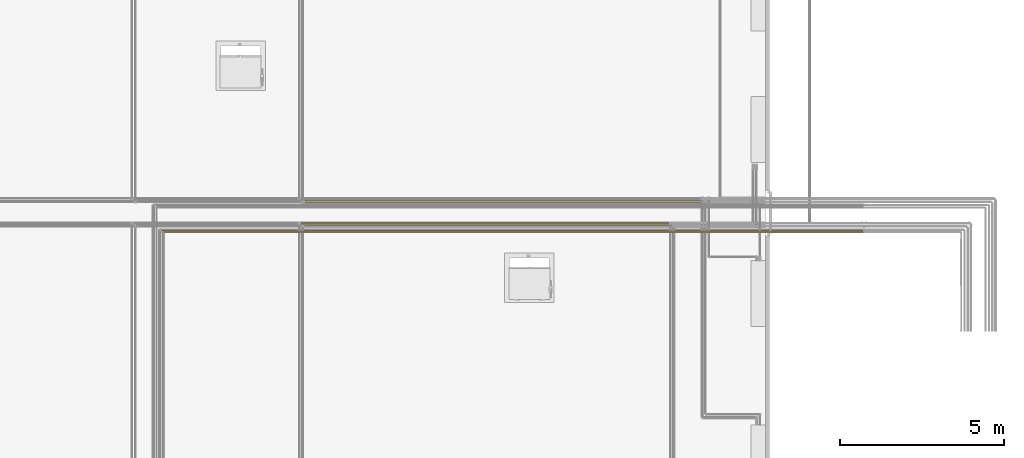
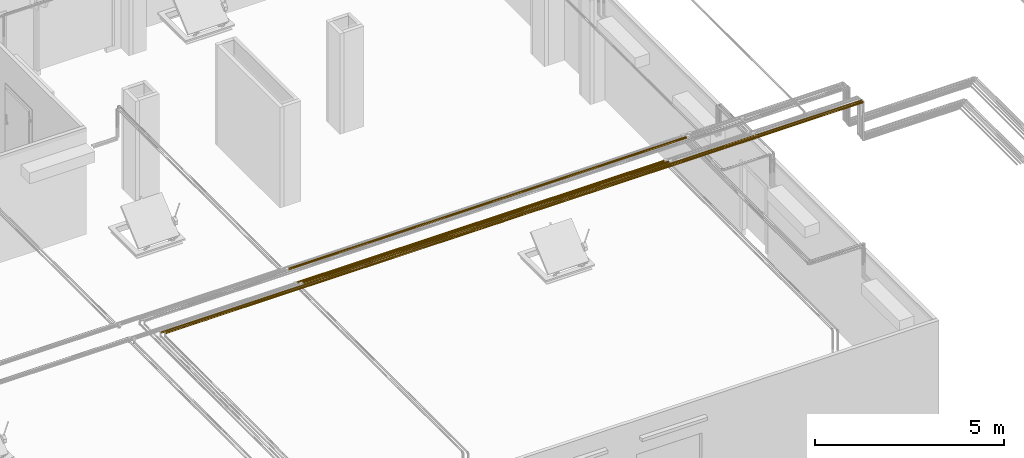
# One storey, part 103 of 652: 5 coverings.
"""IFC2X3 building model written with IfcOpenShell, lengths in millimetres."""

from ifc_helpers import new_model, entity, si_unit, converted_unit, direction, frame, origin, place, context, subcontext, project, spatial, faceted_brep, material, type_object, element, save


model = new_model("IFC2X3")

# Units and contexts
model_context = context("Model", 3, precision=0.01, world=frame((0.0, 0.0, 308426.39999999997)), true_north=direction((6.123233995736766e-17, 1.0)))
plan_context = context("Plan", 3, precision=0.01, world=frame((0.0, 0.0, 308426.39999999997)), true_north=direction((6.123233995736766e-17, 1.0)))
body_context = subcontext(model_context, "Body", "Model", "MODEL_VIEW")
ifc_project = project(units=[si_unit("LENGTHUNIT", "METRE", prefix="MILLI"), si_unit("AREAUNIT", "SQUARE_METRE"), si_unit("VOLUMEUNIT", "CUBIC_METRE"), converted_unit("PLANEANGLEUNIT", "DEGREE", entity("IfcPlaneAngleMeasure", 0.017453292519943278), si_unit("PLANEANGLEUNIT", "RADIAN"), dimensions=[0, 0, 0, 0, 0, 0, 0])], contexts=[model_context, plan_context])

# Site, building, storey
site_placement = place(None, origin())
site = spatial("IfcSite", under=ifc_project, at=site_placement, Name="Default", CompositionType="ELEMENT")
building_placement = place(site_placement, origin())
building = spatial("IfcBuilding", under=site, at=building_placement, CompositionType="ELEMENT")
storey_placement = place(building_placement, frame((0.0, 0.0, 1730.6999999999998)))
storey = spatial("IfcBuildingStorey", under=building, at=storey_placement, Name="EG_Produktion_FFB", CompositionType="ELEMENT", Elevation=1730.6999999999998)

# Coverings
ifc_material = material(Name="Dämmung - Armaflex-Schlauch")
covering_type = type_object("IfcCoveringType", Name="Rohrdämmung außen:Armaflex-Schlauch", PredefinedType="INSULATION")
covering_1_placement = place(storey_placement, frame((52454.44724999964, 41486.94067746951, 3761.9422277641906)))
element("IfcCovering", 1, at=covering_1_placement, inside=storey, type_object=covering_type, material=ifc_material, Name="Rohrdämmung außen:Armaflex-Schlauch", ObjectType="Rohrdämmung außen:Armaflex-Schlauch", PredefinedType="INSULATION", context=body_context, shape_type="Brep", body=[
    faceted_brep([(0.0, 1.5952722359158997, 38.057772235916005), (0.0, 4.228636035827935, 44.41527483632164), (0.0, 6.935081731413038, 50.949212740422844), (0.0, 9.604986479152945, 57.39493299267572), (0.0, 12.274891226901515, 63.84065324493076), (0.0, 18.72061147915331, 66.51055799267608), (0.0, 25.166331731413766, 69.18046274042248), (0.0, 31.612051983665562, 71.85036748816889), (0.0, 38.057772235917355, 74.52027223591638), (0.0, 44.41527483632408, 71.88690843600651), (0.0, 50.94921274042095, 69.18046274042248), (0.0, 57.394932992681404, 66.51055799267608), (0.0, 63.8406532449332, 63.84065324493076), (0.0, 66.51055799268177, 57.39493299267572), (0.0, 69.18046274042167, 50.949212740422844), (0.0, 71.85036748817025, 44.50349248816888), (0.0, 74.52027223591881, 38.057772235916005), (0.0, 71.85036748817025, 31.61205198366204), (0.0, 69.18046274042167, 25.166331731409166), (0.0, 66.51055799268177, 18.720611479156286), (0.0, 63.8406532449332, 12.274891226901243), (0.0, 57.39493299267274, 9.604986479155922), (0.0, 50.94921274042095, 6.935081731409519), (0.0, 44.50349248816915, 4.265176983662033), (0.0, 38.057772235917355, 1.595272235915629), (0.0, 31.700269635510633, 4.2286360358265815), (0.0, 25.166331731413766, 6.935081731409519), (0.0, 18.72061147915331, 9.604986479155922), (0.0, 12.274891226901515, 12.274891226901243), (0.0, 9.604986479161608, 18.720611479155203), (0.0, 6.935081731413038, 25.166331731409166), (0.0, 4.265176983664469, 31.61205198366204), (12161.1055, 18.72061147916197, 9.604986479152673), (12161.1055, 25.166331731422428, 6.935081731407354), (12161.1055, 31.61205198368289, 4.265176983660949), (12161.1055, 38.057772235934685, 1.595272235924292), (12161.1055, 44.41527483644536, 4.228636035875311), (12161.1055, 50.77277743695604, 6.86199983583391), (12161.1055, 57.306715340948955, 9.568445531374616), (12161.1055, 63.84065324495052, 12.274891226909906), (12161.1055, 66.51055799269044, 18.720611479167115), (12161.1055, 69.18046274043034, 25.166331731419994), (12161.1055, 71.85036748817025, 31.61205198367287), (12161.1055, 74.52027223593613, 38.057772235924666), (12161.1055, 71.88690843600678, 44.41527483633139), (12161.1055, 69.25354463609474, 50.77277743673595), (12161.1055, 66.54709894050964, 57.30671534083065), (12161.1055, 63.84065324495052, 63.840653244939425), (12161.105500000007, 57.394932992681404, 66.51055799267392), (12161.1055, 50.94921274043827, 69.18046274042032), (12161.105500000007, 44.503492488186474, 71.85036748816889), (12161.1055, 38.057772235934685, 74.52027223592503), (12161.1055, 31.70026963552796, 71.88690843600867), (12161.1055, 25.342767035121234, 69.25354463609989), (12161.105500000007, 18.808829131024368, 66.54709894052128), (12161.1055, 12.27489122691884, 63.840653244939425), (12161.1055, 9.60498647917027, 57.39493299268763), (12161.1055, 6.935081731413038, 50.94921274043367), (12161.1055, 4.265176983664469, 44.50349248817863), (12161.1055, 1.5952722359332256, 38.057772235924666), (12161.1055, 4.228636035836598, 31.700269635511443), (12161.1055, 6.861999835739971, 25.342767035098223), (12161.1055, 9.568445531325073, 18.80882913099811), (12161.1055, 12.27489122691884, 12.274891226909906)], [[[0, 1, 2, 3, 4, 5, 6, 7, 8, 9, 10, 11, 12, 13, 14, 15, 16, 17, 18, 19, 20, 21, 22, 23, 24, 25, 26, 27, 28, 29, 30, 31]], [[32, 33, 34, 35, 36, 37, 38, 39, 40, 41, 42, 43, 44, 45, 46, 47, 48, 49, 50, 51, 52, 53, 54, 55, 56, 57, 58, 59, 60, 61, 62, 63]], [[41, 40, 39, 20, 19, 18, 17, 16, 43, 42]], [[21, 20, 39, 38, 37, 36, 35, 24, 23, 22]], [[25, 24, 35, 34, 33, 32, 63, 28, 27, 26]], [[62, 61, 60, 59, 0, 31, 30, 29, 28, 63]], [[1, 0, 59, 58, 57, 56, 55, 4, 3, 2]], [[54, 53, 52, 51, 8, 7, 6, 5, 4, 55]], [[9, 8, 51, 50, 49, 48, 47, 12, 11, 10]], [[46, 45, 44, 43, 16, 15, 14, 13, 12, 47]]]),
])
covering_2_placement = place(storey_placement, frame((52454.447249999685, 40736.94222776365, 3761.942227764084)))
element("IfcCovering", 2, at=covering_2_placement, inside=storey, type_object=covering_type, material=ifc_material, Name="Rohrdämmung außen:Armaflex-Schlauch", ObjectType="Rohrdämmung außen:Armaflex-Schlauch", PredefinedType="INSULATION", context=body_context, shape_type="Brep", body=[
    faceted_brep([(11191.105499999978, 74.52027223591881, 38.057772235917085), (11191.105499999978, 71.65865905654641, 44.96631758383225), (11191.105499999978, 69.18046274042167, 50.949212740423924), (11191.105499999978, 66.51055799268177, 57.3949329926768), (11191.105499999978, 63.8406532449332, 63.84065324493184), (11191.105499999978, 57.39493299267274, 66.51055799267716), (11191.105499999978, 50.94921274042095, 69.18046274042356), (11191.105499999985, 44.96631758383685, 71.65865905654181), (11191.105499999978, 38.057772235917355, 74.52027223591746), (11191.105499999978, 31.149226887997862, 71.65865905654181), (11191.105499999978, 25.166331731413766, 69.18046274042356), (11191.105499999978, 18.72061147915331, 66.51055799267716), (11191.105499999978, 12.274891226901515, 63.84065324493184), (11191.105499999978, 9.604986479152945, 57.3949329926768), (11191.105499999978, 6.935081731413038, 50.949212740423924), (11191.105499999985, 4.456885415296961, 44.96631758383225), (11191.105499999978, 1.5952722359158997, 38.057772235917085), (11191.105499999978, 4.265176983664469, 31.612051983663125), (11191.105499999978, 6.935081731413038, 25.166331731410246), (11191.105499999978, 9.604986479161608, 18.72061147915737), (11191.105499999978, 12.274891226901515, 12.274891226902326), (11191.105499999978, 18.72061147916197, 9.604986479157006), (11191.105499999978, 25.166331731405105, 6.935081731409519), (11191.105499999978, 31.149226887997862, 4.4568854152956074), (11191.105499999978, 38.057772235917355, 1.595272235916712), (11191.105499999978, 44.966317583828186, 4.456885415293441), (11191.105499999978, 50.94921274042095, 6.935081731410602), (11191.105499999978, 57.39493299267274, 9.604986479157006), (11191.105499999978, 63.8406532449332, 12.274891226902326), (11191.105499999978, 66.5105579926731, 18.72061147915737), (11191.105499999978, 69.18046274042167, 25.166331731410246), (11191.105499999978, 71.65865905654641, 31.149226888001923), (0.0, 57.39493299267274, 9.604986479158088), (0.0, 50.94921274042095, 6.935081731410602), (0.0, 44.50349248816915, 4.265176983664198), (0.0, 38.057772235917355, 1.5952722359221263), (0.0, 31.14922688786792, 4.4568854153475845), (0.0, 24.240681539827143, 7.3184985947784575), (0.0, 18.25778638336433, 9.796694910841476), (0.0, 12.274891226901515, 12.27489122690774), (0.0, 9.604986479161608, 18.720611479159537), (0.0, 6.935081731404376, 25.166331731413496), (0.0, 4.265176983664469, 31.612051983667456), (0.0, 1.5952722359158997, 38.0577722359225), (0.0, 4.456885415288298, 44.966317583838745), (0.0, 7.318498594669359, 51.87486293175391), (0.0, 9.796694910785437, 57.857758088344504), (0.0, 12.274891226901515, 63.84065324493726), (0.0, 18.72061147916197, 66.51055799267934), (0.0, 25.166331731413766, 69.18046274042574), (0.0, 31.612051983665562, 71.85036748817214), (0.0, 38.057772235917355, 74.52027223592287), (0.0, 44.96631758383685, 71.65865905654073), (0.0, 51.87486293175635, 68.797045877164), (0.0, 57.8577580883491, 66.318849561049), (0.0, 63.8406532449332, 63.84065324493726), (0.0, 66.51055799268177, 57.394932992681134), (0.0, 69.18046274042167, 50.94921274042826), (0.0, 71.85036748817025, 44.503492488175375), (0.0, 74.52027223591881, 38.0577722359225), (0.0, 71.65865905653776, 31.149226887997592), (0.0, 68.79704587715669, 24.2406815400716), (0.0, 66.31884956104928, 18.25778638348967), (0.0, 63.8406532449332, 12.27489122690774)], [[[0, 1, 2, 3, 4, 5, 6, 7, 8, 9, 10, 11, 12, 13, 14, 15, 16, 17, 18, 19, 20, 21, 22, 23, 24, 25, 26, 27, 28, 29, 30, 31]], [[32, 33, 34, 35, 36, 37, 38, 39, 40, 41, 42, 43, 44, 45, 46, 47, 48, 49, 50, 51, 52, 53, 54, 55, 56, 57, 58, 59, 60, 61, 62, 63]], [[41, 40, 39, 20, 19, 18, 17, 16, 43, 42]], [[20, 39, 38, 37, 36, 35, 24, 23, 22, 21]], [[24, 35, 34, 33, 32, 63, 28, 27, 26, 25]], [[28, 63, 62, 61, 60, 59, 0, 31, 30, 29]], [[0, 59, 58, 57, 56, 55, 4, 3, 2, 1]], [[4, 55, 54, 53, 52, 51, 8, 7, 6, 5]], [[8, 51, 50, 49, 48, 47, 12, 11, 10, 9]], [[12, 47, 46, 45, 44, 43, 16, 15, 14, 13]]]),
])
covering_3_placement = place(storey_placement, frame((52345.74774999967, 40840.11722776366, 3765.117227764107)))
element("IfcCovering", 3, at=covering_3_placement, inside=storey, type_object=covering_type, material=ifc_material, Name="Rohrdämmung außen:Armaflex-Schlauch", ObjectType="Rohrdämmung außen:Armaflex-Schlauch", PredefinedType="INSULATION", context=body_context, shape_type="Brep", body=[
    faceted_brep([(11208.504499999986, 68.17027223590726, 34.88277223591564), (11208.504499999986, 65.67804089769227, 40.89955093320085), (11208.504499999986, 63.295430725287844, 46.65168072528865), (11208.504499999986, 60.8580099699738, 52.536134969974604), (11208.504499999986, 58.420589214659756, 58.42058921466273), (11208.504499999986, 52.53613496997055, 60.85800996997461), (11208.504499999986, 46.65168072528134, 63.295430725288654), (11208.504499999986, 40.89955093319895, 65.67804089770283), (11208.504499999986, 34.88277223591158, 68.17027223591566), (11208.504499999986, 28.86599353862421, 65.67804089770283), (11208.504499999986, 23.113863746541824, 63.295430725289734), (11208.504499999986, 17.229409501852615, 60.85800996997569), (11208.504499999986, 11.344955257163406, 58.42058921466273), (11208.504499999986, 8.907534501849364, 52.53613496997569), (11208.504499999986, 6.470113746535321, 46.65168072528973), (11208.504499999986, 4.087503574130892, 40.89955093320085), (11208.504499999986, 1.5952722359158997, 34.88277223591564), (11208.504499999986, 4.032692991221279, 28.9983179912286), (11208.504499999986, 6.470113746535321, 23.113863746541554), (11208.504499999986, 8.907534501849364, 17.229409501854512), (11208.504499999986, 11.344955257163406, 11.34495525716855), (11208.504499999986, 17.229409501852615, 8.90753450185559), (11208.504499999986, 23.113863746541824, 6.470113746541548), (11208.504499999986, 28.86599353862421, 4.087503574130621), (11208.504499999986, 34.88277223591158, 1.595272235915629), (11208.504499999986, 40.89955093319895, 4.087503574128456), (11208.504499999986, 46.65168072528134, 6.470113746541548), (11208.504499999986, 52.53613496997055, 8.90753450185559), (11208.504499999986, 58.420589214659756, 11.34495525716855), (11208.504499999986, 60.8580099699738, 17.229409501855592), (11208.504499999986, 63.295430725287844, 23.113863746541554), (11208.504499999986, 65.67804089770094, 28.865993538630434), (0.0, 52.53613496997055, 8.907534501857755), (0.0, 46.65168072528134, 6.4701137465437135), (0.0, 40.76722648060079, 4.032692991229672), (0.0, 34.88277223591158, 1.5952722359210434), (0.0, 28.86599353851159, 4.087503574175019), (0.0, 22.84921484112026, 6.579734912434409), (0.0, 17.097085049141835, 8.962345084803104), (0.0, 11.344955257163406, 11.344955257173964), (0.0, 8.907534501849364, 17.229409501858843), (0.0, 6.470113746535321, 23.113863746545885), (0.0, 4.032692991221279, 28.99831799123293), (0.0, 1.5952722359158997, 34.88277223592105), (0.0, 4.087503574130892, 40.899550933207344), (0.0, 6.579734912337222, 46.916329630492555), (0.0, 8.962345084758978, 52.66845942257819), (0.0, 11.344955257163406, 58.42058921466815), (0.0, 17.229409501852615, 60.85800996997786), (0.0, 23.113863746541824, 63.295430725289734), (0.0, 28.998317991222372, 65.73285148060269), (0.0, 34.88277223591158, 68.17027223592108), (0.0, 40.89955093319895, 65.67804089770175), (0.0, 46.916329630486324, 63.185809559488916), (0.0, 52.66845942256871, 60.80319938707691), (0.0, 58.420589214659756, 58.42058921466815), (0.0, 60.8580099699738, 52.53613496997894), (0.0, 63.295430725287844, 46.65168072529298), (0.0, 65.73285148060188, 40.767226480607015), (0.0, 68.17027223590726, 34.88277223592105), (0.0, 65.67804089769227, 28.86599353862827), (0.0, 63.18580955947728, 22.849214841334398), (0.0, 60.80319938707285, 17.0970850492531), (0.0, 58.420589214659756, 11.344955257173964)], [[[0, 1, 2, 3, 4, 5, 6, 7, 8, 9, 10, 11, 12, 13, 14, 15, 16, 17, 18, 19, 20, 21, 22, 23, 24, 25, 26, 27, 28, 29, 30, 31]], [[32, 33, 34, 35, 36, 37, 38, 39, 40, 41, 42, 43, 44, 45, 46, 47, 48, 49, 50, 51, 52, 53, 54, 55, 56, 57, 58, 59, 60, 61, 62, 63]], [[41, 40, 39, 20, 19, 18, 17, 16, 43, 42]], [[20, 39, 38, 37, 36, 35, 24, 23, 22, 21]], [[24, 35, 34, 33, 32, 63, 28, 27, 26, 25]], [[28, 63, 62, 61, 60, 59, 0, 31, 30, 29]], [[0, 59, 58, 57, 56, 55, 4, 3, 2, 1]], [[4, 55, 54, 53, 52, 51, 8, 7, 6, 5]], [[8, 51, 50, 49, 48, 47, 12, 11, 10, 9]], [[12, 47, 46, 45, 44, 43, 16, 15, 14, 13]]]),
])
covering_4_placement = place(storey_placement, frame((48066.354977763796, 40649.64222776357, 3774.6422277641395)))
element("IfcCovering", 4, at=covering_4_placement, inside=storey, type_object=covering_type, material=ifc_material, Name="Rohrdämmung außen:Armaflex-Schlauch", ObjectType="Rohrdämmung außen:Armaflex-Schlauch", PredefinedType="INSULATION", context=body_context, shape_type="Brep", body=[
    faceted_brep([(21415.69477223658, 48.047093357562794, 20.423230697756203), (21415.69477223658, 49.12027223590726, 25.35777223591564), (21415.69477223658, 47.089070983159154, 30.261525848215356), (21415.69477223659, 45.05786973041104, 35.16527946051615), (21415.69477223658, 42.160397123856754, 42.16039712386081), (21415.69477223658, 35.16527946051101, 45.05786973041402), (21415.69477223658, 30.261525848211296, 47.08907098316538), (21415.69477223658, 25.35777223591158, 49.12027223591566), (21415.69477223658, 20.454018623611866, 47.08907098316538), (21415.69477223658, 15.550265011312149, 45.05786973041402), (21415.69477223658, 8.55514734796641, 42.16039712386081), (21415.69477223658, 5.65767474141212, 35.16527946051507), (21415.69477223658, 3.62647348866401, 30.261525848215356), (21415.69477223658, 1.5952722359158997, 25.35777223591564), (21415.69477223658, 2.6684511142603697, 20.423230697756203), (21415.69477223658, 3.7416299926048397, 15.488689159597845), (21415.69477223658, 6.764379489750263, 11.44810569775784), (21415.69477223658, 9.787128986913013, 7.407522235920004), (21415.69477223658, 40.92841548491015, 7.407522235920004), (21415.69477223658, 43.95116498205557, 11.44810569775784), (21415.69477223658, 46.97391447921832, 15.488689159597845), (1.5952722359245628, 40.92841548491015, 7.407522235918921), (1.5952722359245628, 9.787128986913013, 7.407522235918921), (1.5952722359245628, 6.764379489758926, 11.44810569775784), (1.5952722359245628, 3.7416299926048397, 15.48868915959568), (1.5952722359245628, 2.6684511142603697, 20.42323069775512), (1.5952722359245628, 1.5952722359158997, 25.35777223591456), (1.5952722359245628, 3.626473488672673, 30.261525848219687), (1.5952722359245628, 5.65767474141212, 35.165279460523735), (1.5952722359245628, 8.55514734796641, 42.16039712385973), (1.5952722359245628, 15.550265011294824, 45.057869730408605), (1.5952722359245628, 20.4540186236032, 47.089070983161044), (1.5952722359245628, 25.35777223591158, 49.12027223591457), (1.5952722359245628, 30.261525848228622, 47.089070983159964), (1.5952722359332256, 35.165279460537, 45.05786973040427), (1.5952722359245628, 42.160397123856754, 42.16039712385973), (1.5952722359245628, 45.05786973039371, 35.165279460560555), (1.5952722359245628, 47.089070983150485, 30.261525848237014), (1.5952722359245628, 49.12027223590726, 25.35777223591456), (1.5952722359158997, 48.047093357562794, 20.42323069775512), (1.5952722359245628, 46.97391447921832, 15.48868915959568), (1.5952722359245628, 43.951164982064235, 11.44810569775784), (13978.475384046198, 2.719609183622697, 18.134893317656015), (6466.069098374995, 2.3938850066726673, 19.24906618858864), (6390.133610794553, 5.210308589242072, 12.758720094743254), (8431.356455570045, 8.779373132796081, 8.333874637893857), (13275.77974730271, 9.734615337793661, 7.453209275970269), (13209.651787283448, 6.330408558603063, 11.123453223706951), (10708.58440882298, 25.35777223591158, 1.595272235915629), (15221.047166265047, 20.099232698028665, 2.1844218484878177), (8595.171567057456, 19.06394994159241, 2.443929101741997), (10894.996909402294, 1.5952722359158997, 25.35777223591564), (21409.882522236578, 25.35777223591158, 1.595272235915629), (21410.632738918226, 21.202751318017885, 2.3454889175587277), (21411.382955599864, 17.04773040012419, 3.095705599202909), (16656.05980747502, 13.760377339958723, 4.617549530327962), (5.9070888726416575, 17.04773040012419, 3.095705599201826), (6.6573055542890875, 21.202751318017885, 2.3454889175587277), (4514.627082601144, 13.222389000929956, 4.927674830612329), (3.75118055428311, 13.417429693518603, 5.251613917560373), (10708.645021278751, 13.219684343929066, 4.9292816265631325), (21413.53886391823, 13.417429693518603, 5.251613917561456), (15963.261396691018, 25.35777223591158, 1.595272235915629), (7.407522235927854, 25.35777223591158, 1.595272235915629), (5357.995965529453, 25.35777223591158, 1.595272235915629), (10516.519778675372, 25.35777223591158, 1.595272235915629), (5.9070888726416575, 33.66781407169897, 3.095705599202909), (4816.515990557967, 36.83345601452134, 4.549959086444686), (6046.673849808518, 30.533179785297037, 2.165714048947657), (7980.214466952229, 40.94830453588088, 7.424793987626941), (6.6573055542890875, 29.512793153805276, 2.3454889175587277), (12636.105142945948, 31.622156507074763, 2.435863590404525), (21411.382955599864, 33.66781407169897, 3.095705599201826), (21410.632738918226, 29.51279315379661, 2.3454889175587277), (16902.6629610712, 37.49315547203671, 4.927674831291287), (21413.538863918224, 37.29811477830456, 5.251613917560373), (14947.829392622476, 48.280304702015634, 19.095671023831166), (15094.98504444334, 45.41126709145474, 12.60968413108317), (7483.42555172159, 48.01771480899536, 18.203514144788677), (8207.638252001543, 44.38513591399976, 11.123453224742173), (12870.939120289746, 41.91405954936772, 8.312369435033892), (10522.078253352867, 49.12027223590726, 25.35777223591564), (10895.418356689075, 49.12027223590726, 25.35777223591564), (10708.645021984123, 37.495860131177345, 4.929281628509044), (3.75118055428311, 37.29811477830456, 5.251613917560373), (12663.622743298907, 47.061905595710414, 35.03180972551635), (15484.0145949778, 48.38376501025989, 31.228041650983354), (5809.964174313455, 44.67110823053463, 39.201596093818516), (8494.719463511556, 39.20159609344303, 44.67110823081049), (13677.178949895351, 44.67110823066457, 39.201596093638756), (14759.407121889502, 32.060429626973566, 48.15537715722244), (6943.889246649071, 32.20172854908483, 48.11335766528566), (8081.77138369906, 47.72953546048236, 33.36780447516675), (10523.492546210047, 25.35777223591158, 49.12027223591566), (10894.251382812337, 25.35777223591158, 49.12027223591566), (12663.62274281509, 15.683734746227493, 47.06190559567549), (15484.014594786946, 19.487502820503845, 48.383765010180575), (5809.964174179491, 11.513948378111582, 44.67110823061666), (8494.719463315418, 6.044436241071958, 39.201596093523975), (13677.178949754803, 11.513948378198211, 44.67110823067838), (14759.40712177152, 2.5601673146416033, 32.06042962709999), (6943.889246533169, 2.602186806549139, 32.201728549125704), (8081.771383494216, 17.34773999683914, 47.72953546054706)], [[[0, 1, 2, 3, 4, 5, 6, 7, 8, 9, 10, 11, 12, 13, 14, 15, 16, 17, 18, 19, 20]], [[21, 22, 23, 24, 25, 26, 27, 28, 29, 30, 31, 32, 33, 34, 35, 36, 37, 38, 39, 40, 41]], [[42, 43, 44]], [[45, 46, 47]], [[43, 26, 25, 24]], [[48, 49, 50]], [[42, 44, 47]], [[46, 16, 47]], [[44, 45, 47]], [[42, 13, 51]], [[49, 52, 53, 54]], [[42, 47, 15]], [[49, 54, 55]], [[50, 56, 57]], [[43, 42, 51]], [[46, 55, 17]], [[26, 43, 51]], [[58, 22, 59, 56]], [[43, 24, 44]], [[42, 15, 14, 13]], [[45, 23, 22]], [[45, 60, 46]], [[45, 44, 23]], [[58, 45, 22]], [[55, 46, 60]], [[60, 50, 49]], [[55, 54, 61, 17]], [[60, 49, 55]], [[49, 48, 62, 52]], [[58, 50, 60]], [[57, 63, 64]], [[58, 56, 50]], [[45, 58, 60]], [[16, 46, 17]], [[16, 15, 47]], [[44, 24, 23]], [[50, 64, 65, 48]], [[57, 64, 50]], [[66, 67, 68]], [[69, 21, 41]], [[69, 67, 21]], [[68, 63, 70, 66]], [[71, 72, 73]], [[74, 18, 75, 72]], [[71, 65, 68]], [[76, 20, 77]], [[76, 1, 0, 20]], [[78, 40, 39, 38]], [[79, 80, 69]], [[79, 40, 78]], [[78, 38, 81, 82]], [[80, 79, 77]], [[78, 77, 79]], [[76, 78, 82]], [[1, 76, 82]], [[78, 76, 77]], [[80, 19, 18]], [[18, 74, 80]], [[77, 19, 80]], [[69, 80, 83]], [[67, 69, 83]], [[41, 40, 79]], [[83, 71, 68]], [[67, 66, 84, 21]], [[83, 68, 67]], [[68, 65, 64, 63]], [[74, 71, 83]], [[73, 52, 62]], [[74, 72, 71]], [[80, 74, 83]], [[69, 41, 79]], [[77, 20, 19]], [[71, 62, 48, 65]], [[73, 62, 71]], [[85, 3, 86]], [[87, 88, 89]], [[90, 88, 91]], [[37, 36, 92]], [[89, 88, 4]], [[86, 1, 82, 81]], [[36, 35, 87]], [[4, 3, 89]], [[90, 7, 6, 5]], [[81, 38, 37]], [[91, 32, 93, 94]], [[81, 37, 92]], [[86, 81, 92]], [[36, 87, 92]], [[35, 34, 88]], [[91, 88, 34]], [[4, 88, 5]], [[85, 86, 92]], [[86, 3, 2, 1]], [[88, 87, 35]], [[85, 87, 89]], [[91, 34, 33, 32]], [[90, 91, 94]], [[7, 90, 94]], [[88, 90, 5]], [[87, 85, 92]], [[3, 85, 89]], [[95, 9, 96]], [[97, 98, 99]], [[100, 98, 101]], [[31, 30, 102]], [[99, 98, 10]], [[96, 7, 94, 93]], [[30, 29, 97]], [[10, 9, 99]], [[100, 13, 12, 11]], [[93, 32, 31]], [[51, 101, 26]], [[93, 31, 102]], [[96, 93, 102]], [[30, 97, 102]], [[29, 28, 98]], [[101, 98, 28]], [[10, 98, 11]], [[95, 96, 102]], [[96, 9, 8, 7]], [[98, 97, 29]], [[95, 97, 99]], [[101, 28, 27, 26]], [[100, 101, 51]], [[13, 100, 51]], [[98, 100, 11]], [[97, 95, 102]], [[9, 95, 99]], [[72, 75, 18, 17, 61, 54, 53, 52, 73]], [[22, 21, 84, 66, 70, 63, 57, 56, 59]]]),
])
covering_5_placement = place(storey_placement, frame((48166.35497775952, 40574.64222776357, 3774.6422277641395)))
element("IfcCovering", 5, at=covering_5_placement, inside=storey, type_object=covering_type, material=ifc_material, Name="Rohrdämmung außen:Armaflex-Schlauch", ObjectType="Rohrdämmung außen:Armaflex-Schlauch", PredefinedType="INSULATION", context=body_context, shape_type="Brep", body=[
    faceted_brep([(21315.694772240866, 48.047093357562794, 20.423230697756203), (21315.694772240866, 49.12027223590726, 25.35777223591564), (21315.694772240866, 47.089070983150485, 30.261525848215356), (21315.694772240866, 45.05786973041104, 35.16527946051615), (21315.694772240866, 42.160397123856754, 42.16039712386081), (21315.694772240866, 35.16527946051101, 45.05786973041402), (21315.69477224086, 30.261525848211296, 47.0890709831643), (21315.694772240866, 25.35777223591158, 49.12027223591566), (21315.694772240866, 20.454018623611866, 47.08907098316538), (21315.694772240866, 15.550265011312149, 45.05786973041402), (21315.694772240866, 8.55514734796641, 42.16039712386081), (21315.694772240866, 5.65767474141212, 35.16527946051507), (21315.694772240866, 3.62647348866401, 30.261525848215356), (21315.694772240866, 1.5952722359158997, 25.35777223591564), (21315.694772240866, 2.6684511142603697, 20.423230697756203), (21315.694772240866, 3.7416299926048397, 15.488689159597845), (21315.694772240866, 6.764379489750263, 11.44810569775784), (21315.694772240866, 9.787128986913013, 7.407522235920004), (21315.694772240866, 40.92841548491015, 7.407522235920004), (21315.694772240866, 43.951164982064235, 11.44810569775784), (21315.694772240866, 46.97391447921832, 15.488689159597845), (1.5952722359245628, 40.928415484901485, 7.407522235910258), (1.5952722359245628, 9.787128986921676, 7.407522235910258), (1.5952722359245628, 6.764379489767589, 11.448105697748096), (1.5952722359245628, 3.7416299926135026, 15.488689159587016), (1.5952722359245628, 2.6684511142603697, 20.42323069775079), (1.5952722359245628, 1.5952722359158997, 25.35777223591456), (1.5952722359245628, 3.626473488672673, 30.261525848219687), (1.5952722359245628, 5.6576747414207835, 35.165279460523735), (1.5952722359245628, 8.55514734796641, 42.16039712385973), (1.5952722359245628, 15.550265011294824, 45.057869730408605), (1.5952722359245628, 20.4540186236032, 47.08907098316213), (1.5952722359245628, 25.35777223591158, 49.12027223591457), (1.5952722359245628, 30.261525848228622, 47.089070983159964), (1.5952722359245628, 35.165279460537, 45.05786973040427), (1.5952722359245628, 42.160397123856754, 42.16039712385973), (1.5952722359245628, 45.05786973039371, 35.16527946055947), (1.5952722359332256, 47.089070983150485, 30.261525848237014), (1.5952722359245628, 49.12027223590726, 25.35777223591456), (1.5952722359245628, 48.047093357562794, 20.42323069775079), (1.5952722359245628, 46.97391447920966, 15.488689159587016), (1.5952722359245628, 43.95116498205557, 11.448105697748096), (13890.445211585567, 2.7249498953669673, 18.11817562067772), (6407.472787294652, 2.3778417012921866, 19.30969825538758), (6388.128272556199, 5.150821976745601, 12.854350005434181), (8274.970445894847, 8.773298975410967, 8.33979195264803), (13088.707890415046, 9.707100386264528, 7.47725555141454), (13121.246323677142, 6.330408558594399, 11.12345322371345), (10658.645022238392, 25.35777223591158, 1.595272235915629), (15021.38387497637, 19.95160828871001, 2.2184162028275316), (8286.021080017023, 19.063962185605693, 2.4439257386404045), (10894.996909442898, 1.5952722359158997, 25.35777223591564), (21309.882522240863, 25.35777223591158, 1.595272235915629), (21310.63273892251, 21.202751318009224, 2.3454889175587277), (21311.38295560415, 17.04773040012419, 3.095705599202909), (16636.977467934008, 13.644355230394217, 4.682853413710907), (5.907088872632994, 17.047730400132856, 3.0957055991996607), (6.657305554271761, 21.202751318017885, 2.345488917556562), (4485.677859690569, 13.222401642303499, 4.927667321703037), (3.75118055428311, 13.417429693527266, 5.251613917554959), (10658.645021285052, 13.219706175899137, 4.929268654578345), (21313.53886392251, 13.417429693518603, 5.251613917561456), (15863.259950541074, 25.35777223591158, 1.595272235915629), (7.407522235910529, 25.35777223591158, 1.595272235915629), (5333.026272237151, 25.35777223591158, 1.595272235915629), (10416.516495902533, 25.35777223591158, 1.595272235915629), (5.907088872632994, 33.66781407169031, 3.0957055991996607), (4752.404010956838, 36.91363793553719, 4.594381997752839), (6103.423586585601, 30.651844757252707, 2.192513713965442), (8023.886947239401, 40.96772375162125, 7.441695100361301), (6.657305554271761, 29.51279315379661, 2.345488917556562), (12787.49724203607, 31.61033121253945, 2.432635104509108), (21311.38295560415, 33.66781407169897, 3.095705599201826), (21310.63273892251, 29.51279315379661, 2.3454889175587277), (16831.61218399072, 37.49314283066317, 4.927667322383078), (21313.53886392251, 37.29811477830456, 5.251613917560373), (14905.242091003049, 48.28542386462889, 19.11444002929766), (15014.982618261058, 45.44733374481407, 12.666597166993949), (7482.814736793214, 48.01791163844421, 18.204137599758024), (8196.043715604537, 44.3851359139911, 11.12345322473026), (12892.637304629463, 41.91391058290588, 8.312224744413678), (10421.85989331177, 49.12027223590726, 25.35777223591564), (10894.529221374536, 49.12027223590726, 25.35777223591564), (10658.64502199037, 37.49583829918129, 4.929268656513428), (3.75118055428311, 37.2981147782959, 5.251613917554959), (12655.52714307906, 47.06970794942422, 35.014285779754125), (15437.88520521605, 48.397013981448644, 31.175825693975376), (5803.528663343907, 44.67110823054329, 39.20159609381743), (8469.105280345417, 39.20159609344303, 44.67110823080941), (13609.480124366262, 44.67110823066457, 39.201596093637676), (14717.36833121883, 32.040826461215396, 48.16113147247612), (6940.699950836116, 32.19867433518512, 48.11427602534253), (8058.8312525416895, 47.72953546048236, 33.3678044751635), (10423.825487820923, 25.35777223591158, 49.12027223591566), (10894.045484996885, 25.35777223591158, 49.12027223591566), (12655.527142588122, 15.701258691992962, 47.069707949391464), (15437.88520502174, 19.539718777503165, 48.397013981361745), (5803.5286632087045, 11.513948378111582, 44.67110823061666), (8469.105280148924, 6.044436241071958, 39.201596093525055), (13609.480124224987, 11.513948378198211, 44.671108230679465), (14717.368331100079, 2.554412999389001, 32.040826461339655), (6940.699950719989, 2.6012684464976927, 32.19867433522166), (8058.831252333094, 17.34773999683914, 47.72953546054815)], [[[0, 1, 2, 3, 4, 5, 6, 7, 8, 9, 10, 11, 12, 13, 14, 15, 16, 17, 18, 19, 20]], [[21, 22, 23, 24, 25, 26, 27, 28, 29, 30, 31, 32, 33, 34, 35, 36, 37, 38, 39, 40, 41]], [[42, 43, 44]], [[45, 46, 47]], [[43, 26, 25, 24]], [[48, 49, 50]], [[42, 44, 47]], [[46, 16, 47]], [[44, 45, 47]], [[42, 13, 51]], [[49, 52, 53, 54]], [[42, 47, 15]], [[49, 54, 55]], [[50, 56, 57]], [[43, 42, 51]], [[46, 55, 17]], [[26, 43, 51]], [[58, 22, 59, 56]], [[43, 24, 44]], [[42, 15, 14, 13]], [[45, 23, 22]], [[45, 60, 46]], [[45, 44, 23]], [[58, 45, 22]], [[55, 46, 60]], [[60, 50, 49]], [[55, 54, 61, 17]], [[60, 49, 55]], [[49, 48, 62, 52]], [[58, 50, 60]], [[57, 63, 64]], [[58, 56, 50]], [[45, 58, 60]], [[16, 46, 17]], [[16, 15, 47]], [[44, 24, 23]], [[50, 64, 65, 48]], [[57, 64, 50]], [[66, 67, 68]], [[69, 21, 41]], [[69, 67, 21]], [[68, 63, 70, 66]], [[71, 72, 73]], [[74, 18, 75, 72]], [[71, 65, 68]], [[76, 20, 77]], [[76, 1, 0, 20]], [[78, 40, 39, 38]], [[79, 80, 69]], [[79, 40, 78]], [[78, 38, 81, 82]], [[79, 77, 80]], [[78, 77, 79]], [[76, 78, 82]], [[1, 76, 82]], [[78, 76, 77]], [[80, 19, 18]], [[80, 83, 69]], [[80, 77, 19]], [[74, 80, 18]], [[67, 69, 83]], [[41, 40, 79]], [[83, 71, 68]], [[67, 66, 84, 21]], [[83, 68, 67]], [[68, 65, 64, 63]], [[74, 71, 83]], [[73, 52, 62]], [[74, 72, 71]], [[80, 74, 83]], [[69, 41, 79]], [[77, 20, 19]], [[71, 62, 48, 65]], [[73, 62, 71]], [[85, 3, 86]], [[87, 88, 89]], [[90, 88, 91]], [[37, 36, 92]], [[89, 88, 4]], [[86, 1, 82, 81]], [[36, 35, 87]], [[4, 3, 89]], [[90, 7, 6, 5]], [[81, 38, 37]], [[91, 32, 93, 94]], [[81, 37, 92]], [[86, 81, 92]], [[36, 87, 92]], [[35, 34, 88]], [[91, 88, 34]], [[4, 88, 5]], [[85, 86, 92]], [[86, 3, 2, 1]], [[88, 87, 35]], [[85, 87, 89]], [[91, 34, 33, 32]], [[90, 91, 94]], [[7, 90, 94]], [[88, 90, 5]], [[87, 85, 92]], [[3, 85, 89]], [[95, 9, 96]], [[97, 98, 99]], [[100, 98, 101]], [[31, 30, 102]], [[99, 98, 10]], [[96, 7, 94, 93]], [[30, 29, 97]], [[10, 9, 99]], [[100, 13, 12, 11]], [[93, 32, 31]], [[51, 101, 26]], [[93, 31, 102]], [[96, 93, 102]], [[30, 97, 102]], [[29, 28, 98]], [[101, 98, 28]], [[10, 98, 11]], [[95, 96, 102]], [[96, 9, 8, 7]], [[98, 97, 29]], [[95, 97, 99]], [[101, 28, 27, 26]], [[100, 101, 51]], [[13, 100, 51]], [[98, 100, 11]], [[97, 95, 102]], [[9, 95, 99]], [[72, 75, 18, 17, 61, 54, 53, 52, 73]], [[22, 21, 84, 66, 70, 63, 57, 56, 59]]]),
])

save(model, "model.ifc")
